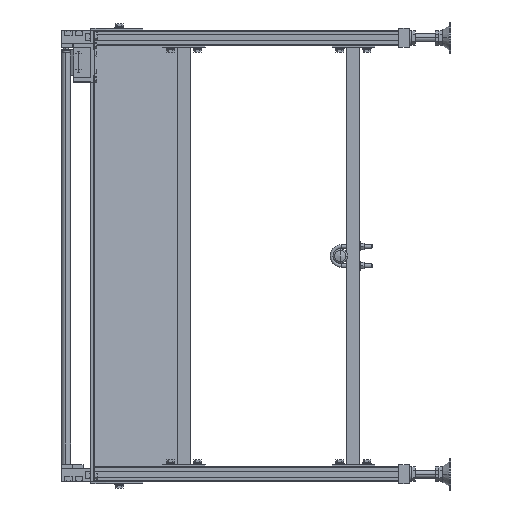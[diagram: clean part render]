
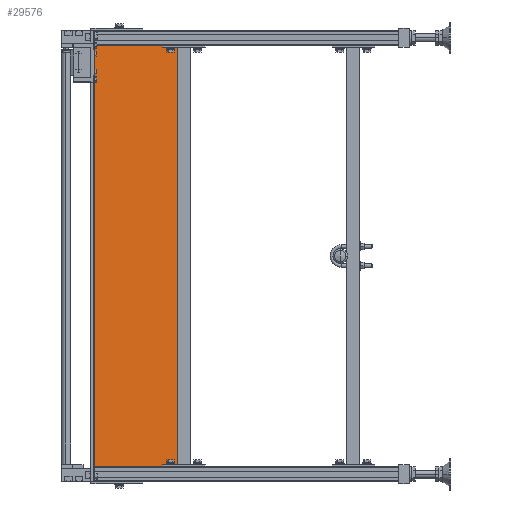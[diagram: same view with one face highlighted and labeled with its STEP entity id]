
A CAD part, left-side view. The second image highlights one B-rep face of the part: STEP entity #29576.
In plain terms, the highlighted planar face has unit normal (-0.993, -0.116, 0).
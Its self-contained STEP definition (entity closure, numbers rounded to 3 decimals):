
#7672 = VERTEX_POINT ( 'NONE', #50365 ) ;
#15684 = EDGE_CURVE ( 'NONE', #7672, #60671, #60846, .T. ) ;
#17560 = DIRECTION ( 'NONE',  ( 0., 0., -1. ) ) ;
#17572 = CARTESIAN_POINT ( 'NONE',  ( 788.5, -64., 410. ) ) ;
#18817 = EDGE_CURVE ( 'NONE', #66383, #60671, #27915, .T. ) ;
#20225 = DIRECTION ( 'NONE',  ( 0.116, -0.993, 0. ) ) ;
#25957 = VERTEX_POINT ( 'NONE', #60140 ) ;
#27915 = LINE ( 'NONE', #33197, #70872 ) ;
#29576 = ADVANCED_FACE ( 'NONE', ( #48158 ), #83815, .F. ) ;
#33197 = CARTESIAN_POINT ( 'NONE',  ( 808.5, -235., 410. ) ) ;
#35446 = VECTOR ( 'NONE', #17560, 1000. ) ;
#39094 = EDGE_CURVE ( 'NONE', #25957, #66383, #73490, .T. ) ;
#42949 = ORIENTED_EDGE ( 'NONE', *, *, #39094, .F. ) ;
#42976 = VECTOR ( 'NONE', #20225, 1000. ) ;
#44119 = DIRECTION ( 'NONE',  ( -0.116, 0.993, 0. ) ) ;
#44299 = ORIENTED_EDGE ( 'NONE', *, *, #18817, .F. ) ;
#44923 = LINE ( 'NONE', #57074, #35446 ) ;
#48158 = FACE_OUTER_BOUND ( 'NONE', #69666, .T. ) ;
#50311 = VECTOR ( 'NONE', #61450, 1000. ) ;
#50365 = CARTESIAN_POINT ( 'NONE',  ( 788.5, -64., -410. ) ) ;
#50879 = ORIENTED_EDGE ( 'NONE', *, *, #77733, .T. ) ;
#55011 = CARTESIAN_POINT ( 'NONE',  ( 808.5, -235., -410. ) ) ;
#57074 = CARTESIAN_POINT ( 'NONE',  ( 788.5, -64., 410. ) ) ;
#59575 = DIRECTION ( 'NONE',  ( 0., 0., -1. ) ) ;
#60140 = CARTESIAN_POINT ( 'NONE',  ( 788.5, -64., 410. ) ) ;
#60671 = VERTEX_POINT ( 'NONE', #55011 ) ;
#60846 = LINE ( 'NONE', #79995, #42976 ) ;
#61450 = DIRECTION ( 'NONE',  ( 0.116, -0.993, 0. ) ) ;
#66383 = VERTEX_POINT ( 'NONE', #78563 ) ;
#69666 = EDGE_LOOP ( 'NONE', ( #81124, #44299, #42949, #50879 ) ) ;
#70872 = VECTOR ( 'NONE', #59575, 1000. ) ;
#71887 = AXIS2_PLACEMENT_3D ( 'NONE', #17572, #77364, #44119 ) ;
#73490 = LINE ( 'NONE', #82277, #50311 ) ;
#77364 = DIRECTION ( 'NONE',  ( 0.993, 0.116, 0. ) ) ;
#77733 = EDGE_CURVE ( 'NONE', #25957, #7672, #44923, .T. ) ;
#78563 = CARTESIAN_POINT ( 'NONE',  ( 808.5, -235., 410. ) ) ;
#79995 = CARTESIAN_POINT ( 'NONE',  ( 788.5, -64., -410. ) ) ;
#81124 = ORIENTED_EDGE ( 'NONE', *, *, #15684, .T. ) ;
#82277 = CARTESIAN_POINT ( 'NONE',  ( 788.5, -64., 410. ) ) ;
#83815 = PLANE ( 'NONE',  #71887 ) ;
